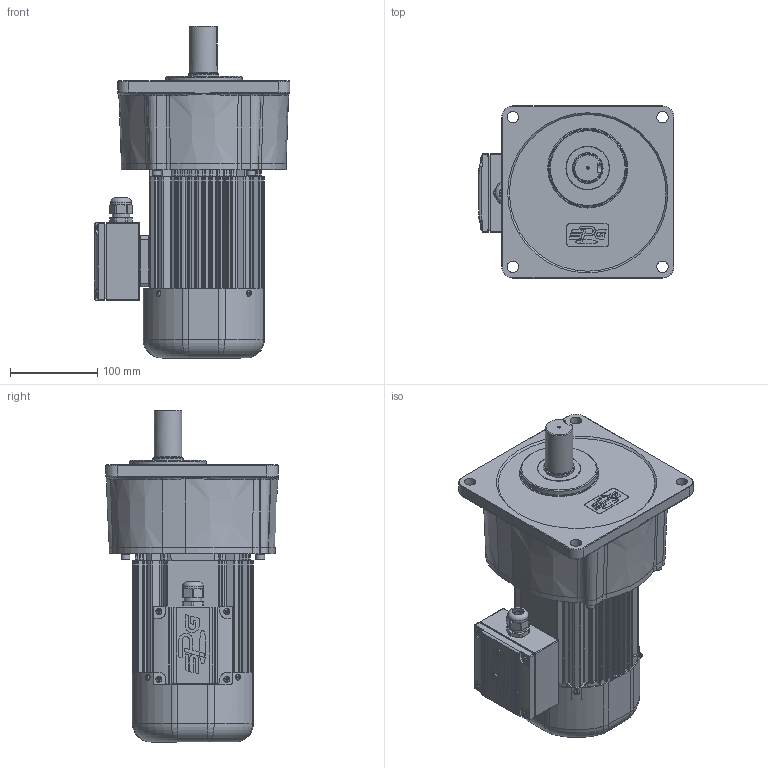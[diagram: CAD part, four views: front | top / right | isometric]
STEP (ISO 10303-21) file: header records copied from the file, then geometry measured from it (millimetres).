
FILE_DESCRIPTION(/* description */ (''),/* implementation_level */ '2;1');
FILE_NAME(/* name */ 'Z:\동력 3D 파일\PAK32_0.4kW_Brake_3D.stp',/* time_stamp */ '2021-11-09T08:53:53+09:00',/* author */ ('jaebok'),/* organization */ (''),/* preprocessor_version */ 'ST-DEVELOPER v18.1',/* originating_system */ 'Autodesk Inventor 2022',/* authorisation */ '');
FILE_SCHEMA (('AUTOMOTIVE_DESIGN { 1 0 10303 214 3 1 1 }'));
Products named in the file (1): 부품12
Bounding box: 225 x 198 x 381.5 mm (x, y, z)
Volume: 2463070.5 mm3; surface area: 656721.4 mm2
Topology: 2 solids, 26 shells, 1929 faces, 4974 edges, 3160 vertices
Faces by surface type: plane 971, cylinder 696, cone 157, torus 55, bspline 30, sphere 20
Full cylindrical faces by diameter (mm): 1.5 x2, 2 x5, 3 x8, 3.242 x5, 3.25 x1, 3.3 x4, 3.6 x4, 3.8 x3, 4 x25, 4.2 x8, 4.917 x4, 5 x23, 5.8 x2, 5.9 x3, 6 x18, 6.4 x1, 6.5 x6, 6.8 x4, 7 x12, 7.9 x6, 8 x3, 8.5 x1, 8.7 x1, 9.5 x4, 10 x5, 12.5 x1, 15 x1, 18 x1, 20 x2, 21 x1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
Entity records: 64942 total; most frequent: CARTESIAN_POINT 15486, DIRECTION 10385, ORIENTED_EDGE 9858, EDGE_CURVE 4929, AXIS2_PLACEMENT_3D 3994, VERTEX_POINT 3154, LINE 2397, VECTOR 2397
